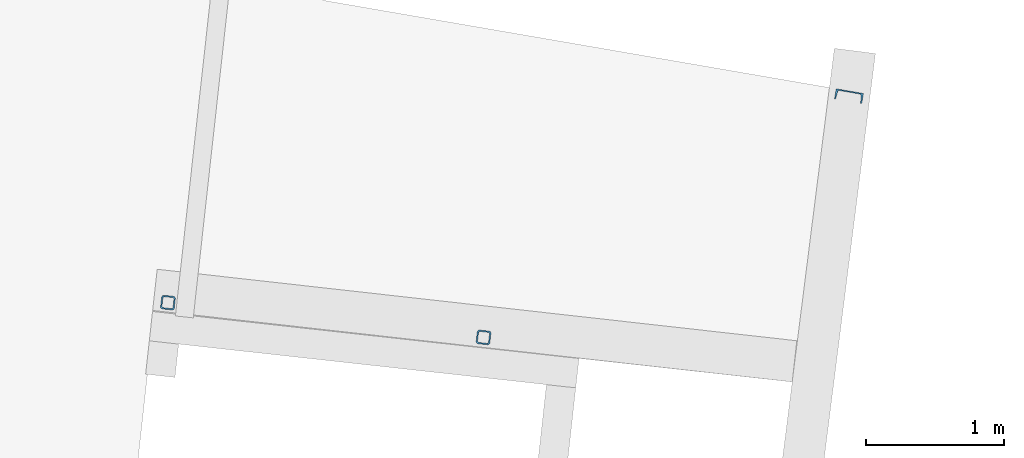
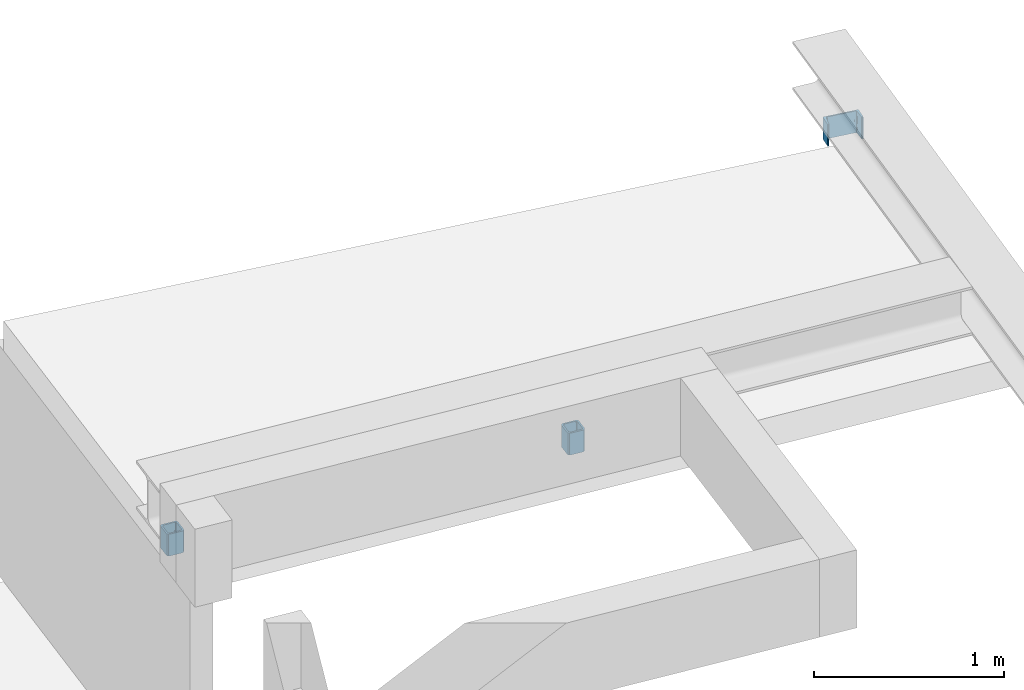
# One storey, part 21 of 21: 3 columns.
"""IFC2X3 building model written with IfcOpenShell, lengths in millimetres."""

from ifc_helpers import new_model, entity, si_unit, converted_unit, derived_unit, direction, frame, origin, place, context, subcontext, project, spatial, faceted_brep, source, transform, mapped, material, type_object, type_shapes, element, save


model = new_model("IFC2X3")

# Units and contexts
model_context = context("Model", 3, precision=0.01, world=origin(), true_north=direction((6.123233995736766e-17, 1.0)))
body_context = subcontext(model_context, "Body", "Model", "MODEL_VIEW")
ifc_project = project(units=[si_unit("LENGTHUNIT", "METRE", prefix="MILLI"), converted_unit("PLANEANGLEUNIT", "DEGREE", entity("IfcPlaneAngleMeasure", 0.017453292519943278), si_unit("PLANEANGLEUNIT", "RADIAN"), dimensions=[0, 0, 0, 0, 0, 0, 0]), si_unit("AREAUNIT", "SQUARE_METRE"), derived_unit("THERMALTRANSMITTANCEUNIT", [(si_unit("MASSUNIT", "GRAM", prefix="KILO"), 1), (si_unit("THERMODYNAMICTEMPERATUREUNIT", "KELVIN"), -1), (si_unit("TIMEUNIT", "SECOND"), -3)])], contexts=[model_context])

# Site, building, storey
site_placement = place(None, frame((-72937.88054949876, 11621.45624098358, 0.0), z_axis=(0.0, 0.0, 1.0), x_axis=(0.9346418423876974, -0.35559053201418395, 0.0)))
site = spatial("IfcSite", under=ifc_project, at=site_placement, Name="Default", CompositionType="ELEMENT")
building_placement = place(site_placement, origin())
building = spatial("IfcBuilding", under=site, at=building_placement, CompositionType="ELEMENT")
storey_placement = place(building_placement, frame((0.0, 0.0, 4250.0)))
storey = spatial("IfcBuildingStorey", under=building, at=storey_placement, Name="01 eerste verdieping", CompositionType="ELEMENT", Elevation=4250.0)

# Columns
ifc_material = material(Name="metaal_staal_generiek")
column_type_1 = type_object("IfcColumnType", Name="UNP200", PredefinedType="COLUMN", material=ifc_material)
shared_shape_1 = source(origin(), body_context, "Body", "Brep", [
    faceted_brep([(20752.274629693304, 36173.89923890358, 4250.0), (20737.908098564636, 36247.5103982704, 4250.0), (20737.908098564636, 36247.5103982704, 4390.0), (20752.274629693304, 36173.89923890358, 4390.0), (20749.366465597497, 36173.3316587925, 4250.0), (20749.366465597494, 36173.3316587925, 4390.0), (20749.36646559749, 36173.3316587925, 4347.235528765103), (20749.36646559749, 36173.3316587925, 4320.0), (20749.36646559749, 36173.3316587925, 4292.764471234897), (20555.978204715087, 36135.58848922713, 4250.0), (20558.88636881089, 36136.1560693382, 4250.0), (20558.88636881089, 36136.156069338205, 4304.471057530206), (20558.88636881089, 36136.156069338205, 4347.2355287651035), (20558.88636881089, 36136.1560693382, 4390.0), (20555.978204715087, 36135.58848922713, 4390.0), (20745.12288825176, 36174.07996919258, 4301.156773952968), (20742.438547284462, 36177.6056737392, 4304.471057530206), (20742.438547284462, 36177.6056737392, 4250.0), (20745.06685044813, 36174.11411872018, 4250.0), (20745.06685044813, 36174.11411872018, 4333.617764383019), (20745.06685044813, 36174.11411872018, 4390.0), (20742.438547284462, 36177.6056737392, 4390.0), (20742.438547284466, 36177.6056737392, 4347.2355287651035), (20728.831835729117, 36226.29523181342, 4390.0), (20728.831835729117, 36226.29523181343, 4309.204729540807), (20728.831835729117, 36226.29523181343, 4250.0), (20726.01602330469, 36231.20162517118, 4250.0), (20727.730324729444, 36228.92427078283, 4250.0), (20723.954007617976, 36232.88700466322, 4327.586168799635), (20723.794254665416, 36232.98737893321, 4250.0), (20723.794254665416, 36232.98737893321, 4390.0), (20726.01602330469, 36231.20162517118, 4390.0), (20727.730324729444, 36228.92427078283, 4390.0), (20718.397111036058, 36234.68217568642, 4250.0), (20715.55332562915, 36234.48709379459, 4330.795270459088), (20715.55332562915, 36234.48709379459, 4250.0), (20718.397111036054, 36234.68217568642, 4390.0), (20715.55332562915, 36234.48709379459, 4390.0), (20721.201519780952, 36234.17181897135, 4250.0), (20721.20151978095, 36234.17181897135, 4390.0), (20567.222860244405, 36205.53775694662, 4250.0), (20567.2228602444, 36205.537756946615, 4390.0), (20567.222860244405, 36205.53775694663, 4309.204729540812), (20562.107710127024, 36203.1218234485, 4250.0), (20564.514414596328, 36204.64922188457, 4250.0), (20560.263393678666, 36201.200649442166, 4327.586168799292), (20560.150609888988, 36201.04940190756, 4250.0), (20558.763354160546, 36198.55928264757, 4390.0), (20558.03117312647, 36195.80445355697, 4390.0), (20557.99905050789, 36192.95416576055, 4330.795270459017), (20558.031173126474, 36195.80445355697, 4250.0), (20557.99905050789, 36192.95416576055, 4250.0), (20557.99905050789, 36192.95416576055, 4390.0), (20564.514414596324, 36204.64922188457, 4390.0), (20558.763354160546, 36198.55928264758, 4250.0), (20560.150609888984, 36201.04940190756, 4390.0), (20562.107710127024, 36203.1218234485, 4390.0), (20563.698791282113, 36142.72142126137, 4250.0), (20563.698791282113, 36142.72142126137, 4390.0), (20563.698791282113, 36142.72142126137, 4347.235528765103), (20563.698791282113, 36142.72142126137, 4320.0), (20563.698791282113, 36142.72142126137, 4292.764471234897), (20562.614744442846, 36138.55095850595, 4301.156773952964), (20562.57623856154, 36138.49781979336, 4250.0), (20562.57623856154, 36138.49781979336, 4333.617764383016), (20562.57623856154, 36138.49781979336, 4390.0), (20541.611673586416, 36209.19964859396, 4250.0), (20541.611673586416, 36209.19964859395, 4390.0)], [[[0, 1, 2, 3]], [[4, 0, 3, 5, 6, 7, 8]], [[9, 10, 11, 12, 13, 14]], [[15, 16, 17]], [[18, 15, 17]], [[7, 19, 15]], [[20, 19, 7, 6, 5]], [[18, 4, 8]], [[20, 21, 22, 16, 19]], [[15, 19, 16]], [[8, 15, 18]], [[7, 15, 8]], [[17, 16, 22, 21, 23, 24, 25]], [[26, 27, 24]], [[26, 28, 29]], [[30, 28, 31]], [[25, 24, 27]], [[32, 24, 23]], [[24, 32, 28]], [[33, 34, 35]], [[34, 36, 37]], [[38, 28, 33]], [[39, 36, 34]], [[33, 28, 34]], [[29, 28, 38]], [[26, 24, 28]], [[28, 30, 39]], [[39, 34, 28]], [[31, 28, 32]], [[40, 35, 34, 37, 41, 42]], [[43, 44, 42]], [[43, 45, 46]], [[47, 48, 49]], [[50, 49, 51]], [[49, 48, 52]], [[42, 53, 45]], [[53, 42, 41]], [[44, 40, 42]], [[54, 45, 50]], [[43, 42, 45]], [[50, 45, 49]], [[55, 45, 56]], [[46, 45, 54]], [[45, 55, 47]], [[47, 49, 45]], [[56, 45, 53]], [[57, 51, 49, 52, 58, 59, 60, 61]], [[62, 11, 10]], [[63, 62, 10]], [[60, 64, 62]], [[65, 64, 60, 59, 58]], [[63, 57, 61]], [[65, 13, 12, 11, 64]], [[62, 64, 11]], [[61, 62, 63]], [[60, 62, 61]], [[66, 9, 14, 67]], [[1, 66, 67, 2]], [[2, 67, 14, 13, 65, 58, 52, 48, 47, 55, 56, 53, 41, 37, 36, 39, 30, 31, 32, 23, 21, 20, 5, 3]], [[17, 25, 27, 26, 29, 38, 33, 35, 40, 44, 43, 46, 54, 50, 51, 57, 63, 10, 9, 66, 1, 0, 4, 18]]]),
])
type_shapes(column_type_1, [shared_shape_1])
column_1_placement = place(storey_placement, frame((0.0, 0.0, -4250.0)))
element("IfcColumn", 1, at=column_1_placement, inside=storey, type_object=column_type_1, material=ifc_material, Name="28.11_SCO_KolomUNP:UNP200", ObjectType="28.11_SCO_KolomUNP:UNP200", context=body_context, shape_type="MappedRepresentation", body=[
    mapped(shared_shape_1, transform((0.0, 0.0, 0.0), scale=1.0)),
])
column_type_2 = type_object("IfcColumnType", Name="K100x10", PredefinedType="COLUMN", material=ifc_material)
shared_shape_2 = source(origin(), body_context, "Body", "Brep", [
    faceted_brep([(94.55785525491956, 111.9579099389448, 140.0), (96.47180809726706, 108.58019968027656, 140.0), (98.38576093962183, 105.20248942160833, 140.0), (98.38576093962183, 105.20248942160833, 0.0), (95.92071486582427, 109.5527593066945, 0.0), (94.55785525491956, 111.9579099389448, 0.0), (91.21146834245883, 113.92611640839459, 140.0), (91.21146834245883, 113.92611640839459, 0.0), (87.86508143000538, 115.89432287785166, 0.0), (87.86508143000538, 115.89432287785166, 140.0), (83.9829221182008, 115.92564622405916, 0.0), (80.10076280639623, 115.95696957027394, 0.0), (80.10076280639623, 115.95696957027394, 140.0), (85.1007300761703, 115.91662714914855, 140.0), (115.9569695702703, 37.44370676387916, 140.0), (115.9569695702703, 37.44370676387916, 0.0), (111.9579099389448, 22.986614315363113, 140.0), (108.58019968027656, 21.07266147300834, 140.0), (105.20248942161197, 19.158708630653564, 140.0), (105.20248942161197, 19.158708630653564, 0.0), (109.55275930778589, 21.623754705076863, 0.0), (111.9579099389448, 22.986614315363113, 0.0), (113.92611640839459, 26.333001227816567, 140.0), (113.92611640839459, 26.333001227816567, 0.0), (115.89432287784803, 29.67938814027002, 0.0), (115.89432287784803, 29.67938814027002, 140.0), (115.92564622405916, 33.56154745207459, 0.0), (115.91662714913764, 32.44373949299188, 140.0), (37.443706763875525, 1.5874999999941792, 140.0), (37.443706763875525, 1.5874999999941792, 0.0), (22.9866143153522, 5.586559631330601, 140.0), (21.0726614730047, 8.964269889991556, 140.0), (19.158708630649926, 12.341980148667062, 140.0), (19.158708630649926, 12.341980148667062, 0.0), (21.623754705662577, 7.991710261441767, 0.0), (22.9866143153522, 5.586559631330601, 0.0), (26.33300122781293, 3.6183531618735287, 140.0), (26.33300122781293, 3.6183531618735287, 0.0), (29.679388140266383, 1.650146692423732, 0.0), (29.679388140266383, 1.650146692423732, 140.0), (33.561547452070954, 1.6188233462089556, 0.0), (32.443739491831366, 1.6278424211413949, 140.0), (1.5875000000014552, 80.10076280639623, 140.0), (1.5875000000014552, 80.10076280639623, 0.0), (5.586559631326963, 94.55785525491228, 140.0), (8.964269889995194, 96.47180809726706, 140.0), (12.341980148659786, 98.38576093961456, 140.0), (12.341980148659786, 98.38576093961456, 0.0), (7.991710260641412, 95.9207148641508, 0.0), (5.586559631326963, 94.55785525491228, 0.0), (3.6183531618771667, 91.21146834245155, 140.0), (3.6183531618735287, 91.21146834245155, 0.0), (1.650146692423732, 87.8650814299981, 0.0), (1.650146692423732, 87.8650814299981, 140.0), (1.6188233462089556, 83.9829221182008, 0.0), (1.6278424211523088, 85.10073007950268, 140.0), (19.69206585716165, 89.96102117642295, 140.0), (19.69206585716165, 89.96102117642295, 84.79130503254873), (19.69206585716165, 89.96102117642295, 0.0), (77.77102242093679, 105.0220571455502, 0.0), (77.77102242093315, 105.0220571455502, 55.20869496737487), (77.77102242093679, 105.0220571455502, 140.0), (15.18845217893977, 87.40908405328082, 140.0), (13.831904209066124, 85.75271256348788, 57.28687543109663), (15.188452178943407, 87.40908405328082, 0.0), (12.564176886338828, 82.94723483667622, 0.0), (12.564176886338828, 82.94723483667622, 140.0), (12.52241242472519, 77.77102242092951, 55.2086949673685), (12.52241242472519, 77.77102242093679, 140.0), (12.52241242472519, 77.77102242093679, 0.0), (27.58344839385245, 19.69206585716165, 140.0), (27.583448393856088, 19.692065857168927, 84.79130503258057), (27.58344839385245, 19.692065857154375, 0.0), (30.135385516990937, 15.18845217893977, 140.0), (31.79175700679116, 13.831904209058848, 57.28687543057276), (39.77344714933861, 12.52241242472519, 55.20869496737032), (34.59723473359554, 12.56417688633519, 140.0), (39.77344714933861, 12.52241242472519, 140.0), (39.77344714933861, 12.52241242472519, 0.0), (34.59723473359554, 12.56417688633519, 0.0), (30.135385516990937, 15.18845217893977, 0.0), (97.85240371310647, 27.58344839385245, 140.0), (97.85240371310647, 27.58344839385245, 84.79130503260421), (97.85240371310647, 27.58344839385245, 0.0), (102.35601739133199, 30.1353855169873, 140.0), (103.96186183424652, 32.193563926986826, 87.25452766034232), (104.98029268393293, 34.59723473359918, 140.0), (102.35601739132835, 30.1353855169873, 0.0), (104.98029268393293, 34.59723473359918, 0.0), (105.02205714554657, 39.77344714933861, 0.0), (105.02205714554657, 39.77344714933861, 84.79130503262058), (105.02205714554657, 39.77344714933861, 140.0), (89.96102117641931, 97.85240371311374, 140.0), (89.96102117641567, 97.85240371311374, 84.79130503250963), (89.96102117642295, 97.85240371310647, 0.0), (87.40908405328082, 102.35601739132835, 140.0), (85.75271256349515, 103.712565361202, 57.286875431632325), (87.40908405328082, 102.35601739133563, 0.0), (82.94723483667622, 104.98029268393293, 0.0), (82.94723483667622, 104.98029268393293, 140.0)], [[[0, 1, 2, 3, 4, 5]], [[6, 0, 5, 7, 8, 9]], [[10, 11, 12, 13, 9, 8]], [[2, 14, 15, 3]], [[16, 17, 18, 19, 20, 21]], [[22, 16, 21, 23, 24, 25]], [[26, 15, 14, 27, 25, 24]], [[18, 28, 29, 19]], [[30, 31, 32, 33, 34, 35]], [[36, 30, 35, 37, 38, 39]], [[40, 29, 28, 41, 39, 38]], [[32, 42, 43, 33]], [[44, 45, 46, 47, 48, 49]], [[50, 44, 49, 51, 52, 53]], [[54, 43, 42, 55, 53, 52]], [[46, 12, 11, 47]], [[56, 57, 58, 59, 60, 61]], [[57, 62, 63]], [[64, 63, 65]], [[66, 63, 62]], [[67, 66, 68]], [[67, 69, 65]], [[58, 63, 64]], [[57, 63, 58]], [[63, 67, 65]], [[57, 56, 62]], [[67, 63, 66]], [[70, 71, 72, 69, 67, 68]], [[71, 73, 74]], [[71, 74, 72]], [[75, 74, 76]], [[75, 76, 77]], [[75, 78, 79]], [[76, 74, 73]], [[72, 74, 80]], [[80, 74, 79]], [[74, 75, 79]], [[71, 70, 73]], [[77, 81, 82, 83, 78, 75]], [[82, 84, 85]], [[86, 85, 84]], [[82, 85, 87]], [[87, 85, 88]], [[89, 88, 90]], [[86, 91, 90]], [[85, 86, 90]], [[82, 87, 83]], [[82, 81, 84]], [[85, 90, 88]], [[91, 92, 93, 94, 89, 90]], [[93, 95, 96]], [[97, 96, 98]], [[99, 96, 95]], [[60, 99, 61]], [[60, 59, 98]], [[94, 96, 97]], [[93, 96, 94]], [[96, 60, 98]], [[93, 92, 95]], [[60, 96, 99]], [[95, 2, 1]], [[95, 92, 2]], [[95, 1, 0]], [[95, 0, 6]], [[95, 6, 9]], [[95, 9, 99]], [[2, 92, 91]], [[91, 14, 2]], [[86, 14, 91]], [[86, 27, 14]], [[86, 25, 27]], [[84, 25, 86]], [[84, 22, 25]], [[84, 16, 22]], [[84, 17, 16]], [[84, 18, 17]], [[81, 18, 84]], [[18, 81, 77]], [[77, 28, 18]], [[28, 77, 76]], [[76, 41, 28]], [[76, 39, 41]], [[76, 36, 39]], [[76, 30, 36]], [[76, 73, 30]], [[73, 31, 30]], [[73, 32, 31]], [[73, 70, 32]], [[32, 70, 42]], [[68, 42, 70]], [[68, 66, 42]], [[66, 55, 42]], [[66, 53, 55]], [[66, 50, 53]], [[66, 44, 50]], [[44, 66, 62]], [[62, 45, 44]], [[62, 46, 45]], [[56, 46, 62]], [[46, 56, 12]], [[61, 12, 56]], [[12, 61, 99]], [[99, 9, 13]], [[99, 13, 12]], [[88, 24, 23]], [[88, 23, 21]], [[87, 88, 21]], [[88, 26, 24]], [[88, 15, 26]], [[88, 89, 15]], [[15, 89, 94]], [[94, 3, 15]], [[97, 3, 94]], [[97, 4, 3]], [[97, 5, 4]], [[98, 5, 97]], [[98, 7, 5]], [[98, 8, 7]], [[98, 10, 8]], [[98, 11, 10]], [[59, 11, 98]], [[11, 59, 58]], [[58, 47, 11]], [[58, 64, 47]], [[64, 48, 47]], [[64, 49, 48]], [[64, 51, 49]], [[64, 52, 51]], [[65, 52, 64]], [[65, 54, 52]], [[65, 43, 54]], [[65, 69, 43]], [[69, 33, 43]], [[72, 33, 69]], [[72, 80, 33]], [[80, 34, 33]], [[80, 35, 34]], [[80, 37, 35]], [[80, 38, 37]], [[38, 80, 79]], [[79, 40, 38]], [[79, 29, 40]], [[78, 29, 79]], [[29, 78, 19]], [[19, 78, 83]], [[83, 87, 19]], [[87, 20, 19]], [[87, 21, 20]]]),
])
type_shapes(column_type_2, [shared_shape_2])
column_2_placement = place(storey_placement, frame((18735.568333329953, 33558.73277164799, 0.0)))
element("IfcColumn", 2, at=column_2_placement, inside=storey, type_object=column_type_2, material=ifc_material, Name="28.11_Kolom koker gelijkzijdig", ObjectType="stalen kolom, koker gelijkzijdig", context=body_context, shape_type="MappedRepresentation", body=[
    mapped(shared_shape_2, transform((0.0, 0.0, 0.0), scale=1.0)),
])
column_type_3 = type_object("IfcColumnType", Name="K100x10", PredefinedType="COLUMN", material=ifc_material)
shared_shape_3 = source(origin(), body_context, "Body", "Brep", [
    faceted_brep([(94.55785501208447, 111.957910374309, 140.0), (96.47180788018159, 108.58020013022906, 140.0), (98.38576074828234, 105.20248988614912, 140.0), (98.38576074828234, 105.20248988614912, 0.0), (95.9207146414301, 109.55275975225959, 0.0), (94.55785501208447, 111.957910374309, 0.0), (91.211468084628, 113.92611681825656, 140.0), (91.211468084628, 113.92611681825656, 0.0), (87.86508115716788, 115.89432326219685, 0.0), (87.86508115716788, 115.89432326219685, 140.0), (83.9829218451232, 115.92564657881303, 0.0), (80.10076253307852, 115.95696989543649, 0.0), (80.10076253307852, 115.95696989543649, 140.0), (85.10072980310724, 115.91662751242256, 140.0), (115.95696989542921, 37.443707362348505, 140.0), (115.95696989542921, 37.44370736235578, 0.0), (111.95791037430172, 22.986614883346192, 140.0), (108.58020013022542, 21.072662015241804, 140.0), (105.20248988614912, 19.15870914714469, 140.0), (105.20248988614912, 19.15870914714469, 0.0), (109.55275975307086, 21.623755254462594, 0.0), (111.95791037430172, 22.986614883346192, 0.0), (113.92611681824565, 26.333001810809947, 140.0), (113.92611681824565, 26.333001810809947, 0.0), (115.89432326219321, 29.679388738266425, 0.0), (115.89432326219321, 29.679388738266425, 140.0), (115.92564657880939, 33.56154805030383, 0.0), (115.91662751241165, 32.44374009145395, 140.0), (37.443707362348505, 1.5875000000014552, 140.0), (37.44370736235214, 1.5875000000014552, 0.0), (22.986614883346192, 5.586559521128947, 140.0), (21.07266201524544, 8.964269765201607, 140.0), (19.15870914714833, 12.341980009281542, 140.0), (19.15870914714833, 12.341980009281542, 0.0), (21.62375525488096, 7.991710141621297, 0.0), (22.986614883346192, 5.586559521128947, 0.0), (26.33300181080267, 3.618353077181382, 140.0), (26.33300181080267, 3.618353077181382, 0.0), (29.679388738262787, 1.6501466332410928, 0.0), (29.679388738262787, 1.6501466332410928, 140.0), (33.561548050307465, 1.618823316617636, 0.0), (32.44374009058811, 1.627842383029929, 140.0), (1.5875000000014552, 80.10076253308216, 140.0), (1.5875000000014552, 80.10076253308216, 0.0), (5.586559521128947, 94.55785501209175, 140.0), (8.964269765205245, 96.47180788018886, 140.0), (12.341980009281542, 98.38576074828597, 140.0), (12.341980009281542, 98.38576074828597, 0.0), (7.991710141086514, 95.92071464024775, 0.0), (5.586559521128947, 94.55785501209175, 0.0), (3.618353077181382, 91.211468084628, 140.0), (3.618353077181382, 91.211468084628, 0.0), (1.6501466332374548, 87.86508115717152, 0.0), (1.6501466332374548, 87.86508115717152, 140.0), (1.618823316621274, 83.98292184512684, 0.0), (1.6278423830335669, 85.10072980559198, 140.0), (19.692065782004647, 89.96102104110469, 140.0), (19.69206578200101, 89.96102104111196, 84.79130503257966), (19.692065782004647, 89.96102104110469, 0.0), (77.77102223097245, 105.02205745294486, 0.0), (77.77102223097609, 105.02205745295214, 55.20869496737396), (77.77102223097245, 105.02205745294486, 140.0), (15.188452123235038, 87.40908388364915, 140.0), (13.831904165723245, 85.75271238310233, 57.28687543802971), (15.188452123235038, 87.40908388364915, 0.0), (12.564176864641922, 82.94723464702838, 0.0), (12.564176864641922, 82.94723464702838, 140.0), (12.522412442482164, 77.77102223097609, 55.20869496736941), (12.522412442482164, 77.77102223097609, 140.0), (12.522412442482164, 77.77102223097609, 0.0), (27.58344885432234, 19.692065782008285, 140.0), (27.583448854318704, 19.692065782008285, 84.79130503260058), (27.58344885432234, 19.692065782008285, 0.0), (30.135386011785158, 15.188452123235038, 140.0), (31.79175751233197, 13.831904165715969, 57.28687543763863), (30.135386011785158, 15.188452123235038, 0.0), (34.59723524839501, 12.564176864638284, 0.0), (39.77344766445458, 12.522412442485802, 55.20869496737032), (34.59723524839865, 12.564176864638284, 140.0), (39.77344766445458, 12.522412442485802, 140.0), (39.77344766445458, 12.522412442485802, 0.0), (97.85240411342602, 27.58344885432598, 140.0), (97.85240411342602, 27.583448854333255, 84.79130503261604), (97.85240411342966, 27.58344885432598, 0.0), (102.35601777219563, 30.135386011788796, 140.0), (103.9618621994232, 32.193564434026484, 87.25452765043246), (104.98029303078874, 34.597235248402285, 140.0), (102.35601777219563, 30.135386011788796, 0.0), (104.98029303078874, 34.597235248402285, 0.0), (105.0220574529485, 39.773447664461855, 0.0), (105.0220574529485, 39.773447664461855, 84.79130503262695), (105.0220574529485, 39.773447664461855, 140.0), (89.96102104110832, 97.85240411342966, 140.0), (89.96102104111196, 97.85240411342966, 84.79130503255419), (89.96102104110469, 97.85240411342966, 0.0), (87.40908388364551, 102.35601777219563, 140.0), (85.75271238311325, 103.71256572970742, 57.28687543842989), (87.40908388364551, 102.35601777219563, 0.0), (82.94723464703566, 104.98029303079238, 0.0), (82.94723464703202, 104.98029303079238, 140.0)], [[[0, 1, 2, 3, 4, 5]], [[6, 0, 5, 7, 8, 9]], [[10, 11, 12, 13, 9, 8]], [[2, 14, 15, 3]], [[16, 17, 18, 19, 20, 21]], [[22, 16, 21, 23, 24, 25]], [[26, 15, 14, 27, 25, 24]], [[18, 28, 29, 19]], [[30, 31, 32, 33, 34, 35]], [[36, 30, 35, 37, 38, 39]], [[40, 29, 28, 41, 39, 38]], [[32, 42, 43, 33]], [[44, 45, 46, 47, 48, 49]], [[50, 44, 49, 51, 52, 53]], [[54, 43, 42, 55, 53, 52]], [[46, 12, 11, 47]], [[56, 57, 58, 59, 60, 61]], [[57, 62, 63]], [[64, 63, 65]], [[66, 63, 62]], [[67, 66, 68]], [[67, 69, 65]], [[58, 63, 64]], [[57, 63, 58]], [[63, 67, 65]], [[57, 56, 62]], [[67, 63, 66]], [[68, 70, 71, 72, 69, 67]], [[71, 73, 74]], [[75, 74, 76]], [[77, 74, 78]], [[77, 78, 79]], [[77, 80, 76]], [[78, 74, 73]], [[72, 74, 75]], [[71, 74, 72]], [[74, 77, 76]], [[71, 70, 73]], [[81, 82, 83, 80, 77, 79]], [[82, 84, 85]], [[86, 85, 84]], [[82, 85, 87]], [[87, 85, 88]], [[89, 88, 90]], [[86, 91, 90]], [[85, 86, 90]], [[82, 87, 83]], [[82, 81, 84]], [[85, 90, 88]], [[92, 93, 94, 89, 90, 91]], [[93, 95, 96]], [[97, 96, 98]], [[99, 96, 95]], [[60, 99, 61]], [[60, 59, 98]], [[94, 96, 97]], [[93, 96, 94]], [[96, 60, 98]], [[93, 92, 95]], [[60, 96, 99]], [[95, 2, 1]], [[95, 92, 2]], [[95, 1, 0]], [[95, 0, 6]], [[95, 6, 9]], [[95, 9, 99]], [[2, 92, 91]], [[91, 14, 2]], [[86, 14, 91]], [[86, 27, 14]], [[86, 25, 27]], [[84, 25, 86]], [[84, 22, 25]], [[84, 16, 22]], [[84, 17, 16]], [[84, 18, 17]], [[81, 18, 84]], [[18, 81, 79]], [[79, 28, 18]], [[28, 79, 78]], [[78, 41, 28]], [[78, 39, 41]], [[78, 36, 39]], [[78, 30, 36]], [[78, 73, 30]], [[73, 31, 30]], [[73, 32, 31]], [[73, 70, 32]], [[32, 70, 42]], [[68, 42, 70]], [[68, 66, 42]], [[66, 55, 42]], [[66, 53, 55]], [[66, 50, 53]], [[66, 44, 50]], [[44, 66, 62]], [[62, 45, 44]], [[62, 46, 45]], [[56, 46, 62]], [[46, 56, 12]], [[61, 12, 56]], [[12, 61, 99]], [[99, 9, 13]], [[99, 13, 12]], [[88, 24, 23]], [[88, 23, 21]], [[87, 88, 21]], [[88, 26, 24]], [[88, 15, 26]], [[88, 89, 15]], [[15, 89, 94]], [[94, 3, 15]], [[97, 3, 94]], [[97, 4, 3]], [[97, 5, 4]], [[98, 5, 97]], [[98, 7, 5]], [[98, 8, 7]], [[98, 10, 8]], [[98, 11, 10]], [[59, 11, 98]], [[11, 59, 58]], [[58, 47, 11]], [[58, 64, 47]], [[64, 48, 47]], [[64, 49, 48]], [[64, 51, 49]], [[64, 52, 51]], [[65, 52, 64]], [[65, 54, 52]], [[65, 43, 54]], [[65, 69, 43]], [[69, 33, 43]], [[72, 33, 69]], [[72, 75, 33]], [[75, 34, 33]], [[75, 35, 34]], [[75, 37, 35]], [[75, 38, 37]], [[38, 75, 76]], [[76, 40, 38]], [[76, 29, 40]], [[80, 29, 76]], [[29, 80, 19]], [[19, 80, 83]], [[83, 87, 19]], [[87, 20, 19]], [[87, 21, 20]]]),
])
type_shapes(column_type_3, [shared_shape_3])
column_3_placement = place(storey_placement, frame((16509.265214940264, 32981.17288586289, 0.0)))
element("IfcColumn", 3, at=column_3_placement, inside=storey, type_object=column_type_3, material=ifc_material, Name="28.11_Kolom koker gelijkzijdig", ObjectType="stalen kolom, koker gelijkzijdig", context=body_context, shape_type="MappedRepresentation", body=[
    mapped(shared_shape_3, transform((0.0, 0.0, 0.0), scale=1.0)),
])

save(model, "model.ifc")
